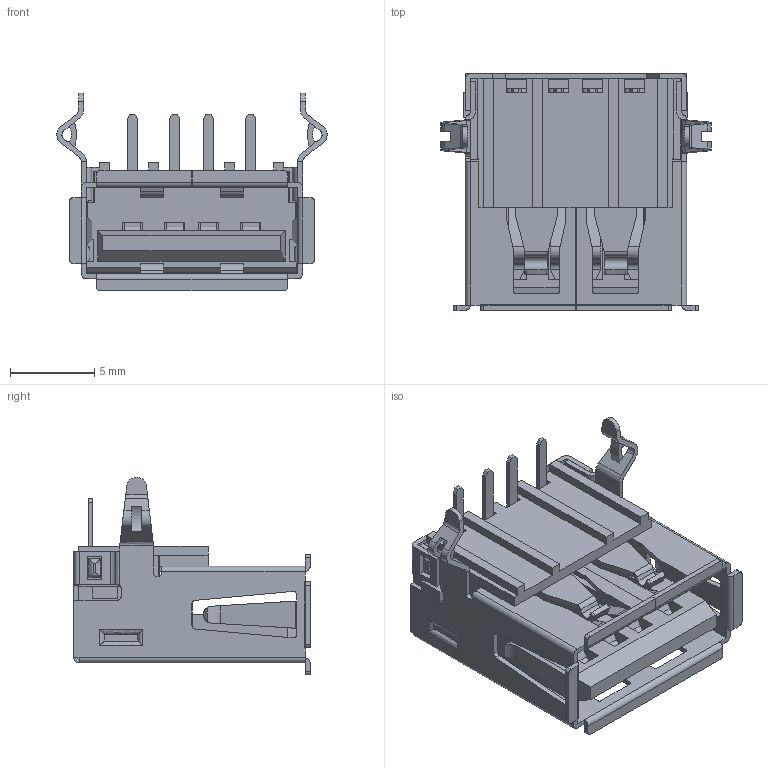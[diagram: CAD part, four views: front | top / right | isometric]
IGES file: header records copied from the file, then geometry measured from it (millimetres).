
Global section: file name: Filename.iges; native system: Open CASCADE 7.3; preprocessor: Open CASCADE IGES processor 7.3; date: 20201209.121357; units: millimetre
Bounding box: 16 x 14 x 11.7 mm (x, y, z)
Surface area: 2153.5 mm2 (no closed solid volume)
Topology: 0 solids, 0 shells, 750 faces, 8502 edges, 21240 vertices
Faces by surface type: plane 482, revolution 268
